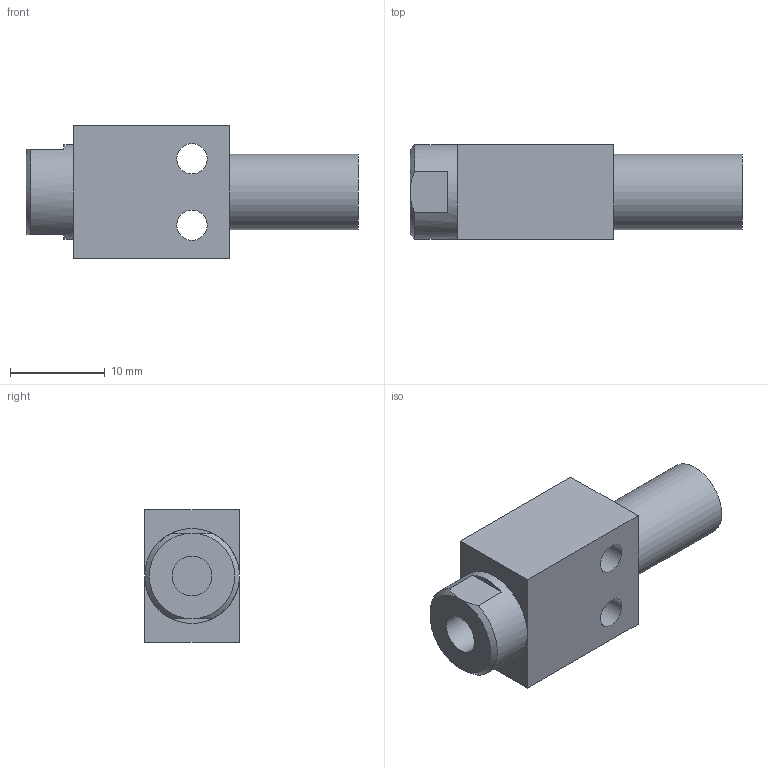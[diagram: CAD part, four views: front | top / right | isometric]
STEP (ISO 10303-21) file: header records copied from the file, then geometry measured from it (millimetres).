
FILE_DESCRIPTION(('STEP AP203'),'1');
FILE_NAME(').stp','2025-09-26T03:13:14',(' '),(' '),'Spatial InterOp 3D',' ',' ');
FILE_SCHEMA(('CONFIG_CONTROL_DESIGN'));
Length unit declared in the file: millimetre
Products named in the file (1): 1
Bounding box: 35 x 10 x 14 mm (x, y, z)
Volume: 3004.9 mm3; surface area: 1919.7 mm2
Topology: 1 solids, 1 shells, 25 faces, 52 edges, 33 vertices
Faces by surface type: plane 16, cylinder 7, cone 2
Full cylindrical faces by diameter (mm): 3.2 x2, 4.2 x3, 8 x1, 10 x1
Entity records: 690 total; most frequent: CARTESIAN_POINT 126, DIRECTION 112, ORIENTED_EDGE 88, AXIS2_PLACEMENT_3D 46, EDGE_CURVE 44, EDGE_LOOP 40, FACE_OUTER_BOUND 32, VERTEX_POINT 32
